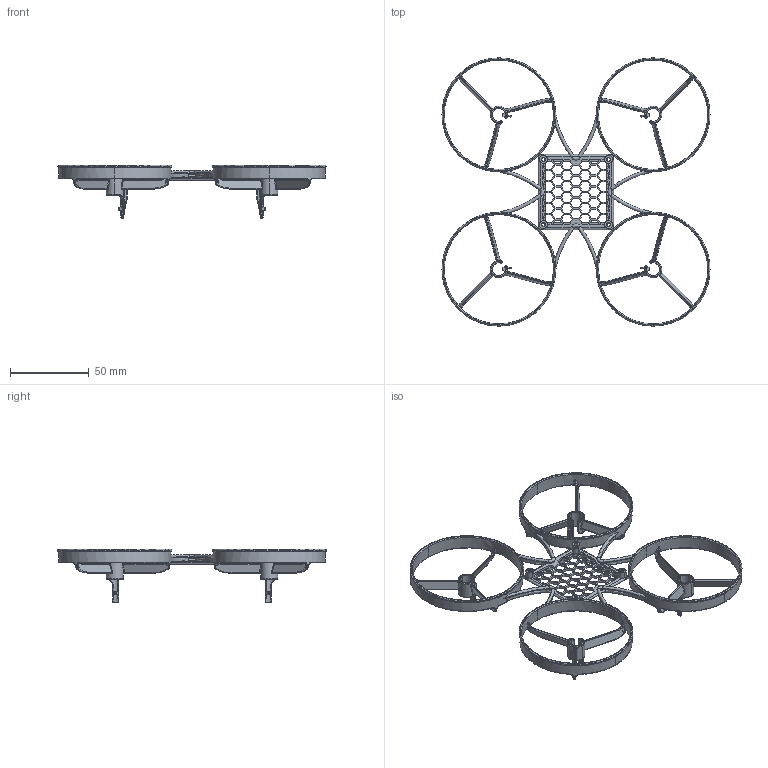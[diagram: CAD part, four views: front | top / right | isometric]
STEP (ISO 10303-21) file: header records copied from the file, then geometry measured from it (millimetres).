
FILE_DESCRIPTION (( 'STEP AP214' ), '1' );
FILE_NAME ('21-D02-DCM-066-s00-D.STEP', '2021-08-06T17:16:04', ( '' ), ( '' ), 'SwSTEP 2.0', 'SolidWorks 2021', '' );
FILE_SCHEMA (( 'AUTOMOTIVE_DESIGN' ));
Length unit declared in the file: millimetre
Products named in the file (1): 21-D02-DCM-066-s00-D
Bounding box: 170.51 x 170.6 x 34.25 mm (x, y, z)
Surface area: 32684.4 mm2 (no closed solid volume)
Topology: 0 solids, 3 shells, 1371 faces, 3751 edges, 2313 vertices
Faces by surface type: plane 474, bspline 432, cylinder 357, torus 80, cone 28
Entity records: 64020 total; most frequent: CARTESIAN_POINT 32605, ORIENTED_EDGE 7461, DIRECTION 5471, EDGE_CURVE 3735, VERTEX_POINT 2313, AXIS2_PLACEMENT_3D 1961, LINE 1549, VECTOR 1549
